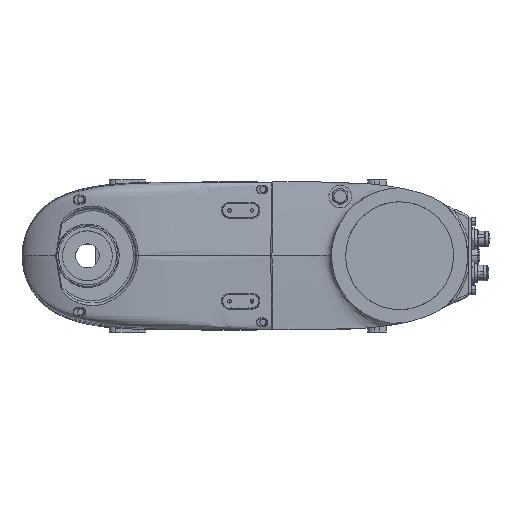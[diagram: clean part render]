
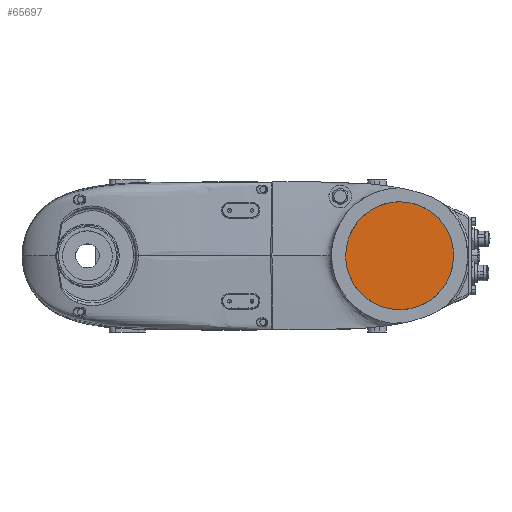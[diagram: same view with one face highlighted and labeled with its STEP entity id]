
A CAD part, top view. The second image highlights one B-rep face of the part: STEP entity #65697.
In plain terms, the highlighted planar face has unit normal (0, 0, 1).
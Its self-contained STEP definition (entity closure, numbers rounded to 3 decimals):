
#406 = CARTESIAN_POINT ( 'NONE',  ( 317.695, 21.05, -275. ) ) ;
#1255 = CARTESIAN_POINT ( 'NONE',  ( 251.195, -41.222, -275. ) ) ;
#4083 = EDGE_CURVE ( 'NONE', #35627, #32943, #74595, .T. ) ;
#4529 = CARTESIAN_POINT ( 'NONE',  ( 227.806, 6.218, -275. ) ) ;
#4675 = VERTEX_POINT ( 'NONE', #48070 ) ;
#4805 = CARTESIAN_POINT ( 'NONE',  ( 268.782, 47.194, -275. ) ) ;
#6599 = CARTESIAN_POINT ( 'NONE',  ( 281.218, 47.194, -275. ) ) ;
#6882 = CARTESIAN_POINT ( 'NONE',  ( 320.981, 12.316, -275. ) ) ;
#7704 = CARTESIAN_POINT ( 'NONE',  ( 322.194, -6.218, -275. ) ) ;
#7757 = CARTESIAN_POINT ( 'NONE',  ( 243.611, -35.786, -275. ) ) ;
#11060 = CARTESIAN_POINT ( 'NONE',  ( 229.926, 15.305, -275. ) ) ;
#11350 = CARTESIAN_POINT ( 'NONE',  ( 275., 47.5, -275. ) ) ;
#11564 = ORIENTED_EDGE ( 'NONE', *, *, #40156, .F. ) ;
#13139 = CARTESIAN_POINT ( 'NONE',  ( 287.316, 45.981, -275. ) ) ;
#13401 = CARTESIAN_POINT ( 'NONE',  ( 322.5, 3.109, -275. ) ) ;
#14205 = CARTESIAN_POINT ( 'NONE',  ( 320.074, -15.305, -275. ) ) ;
#14253 = CARTESIAN_POINT ( 'NONE',  ( 237.232, -28.975, -275. ) ) ;
#14612 = CARTESIAN_POINT ( 'NONE',  ( 275., 47.5, -275. ) ) ;
#17540 = CARTESIAN_POINT ( 'NONE',  ( 233.778, 23.805, -275. ) ) ;
#19635 = CARTESIAN_POINT ( 'NONE',  ( 296.05, 42.695, -275. ) ) ;
#19797 = CARTESIAN_POINT ( 'NONE',  ( 287.316, -45.981, -275. ) ) ;
#20736 = CARTESIAN_POINT ( 'NONE',  ( 316.222, -23.805, -275. ) ) ;
#20746 = FACE_OUTER_BOUND ( 'NONE', #82838, .T. ) ;
#20791 = CARTESIAN_POINT ( 'NONE',  ( 232.305, -21.05, -275. ) ) ;
#21799 = EDGE_CURVE ( 'NONE', #43337, #35627, #27685, .T. ) ;
#24155 = CARTESIAN_POINT ( 'NONE',  ( 239.214, 31.389, -275. ) ) ;
#26261 = CARTESIAN_POINT ( 'NONE',  ( 303.975, 37.768, -275. ) ) ;
#26441 = CARTESIAN_POINT ( 'NONE',  ( 278.109, -47.5, -275. ) ) ;
#27372 = CARTESIAN_POINT ( 'NONE',  ( 310.786, -31.389, -275. ) ) ;
#27426 = CARTESIAN_POINT ( 'NONE',  ( 229.019, -12.316, -275. ) ) ;
#27685 = B_SPLINE_CURVE_WITH_KNOTS ( 'NONE', 3,
 ( #69586, #37061, #4529, #50194, #11060, #56752, #17540, #63342, #24155, #69863, #30780, #76397, #37338, #82837, #43919, #4805, #50485, #11350 ),
 .UNSPECIFIED., .F., .F.,
 ( 4, 2, 2, 2, 2, 2, 2, 2, 4 ),
 ( 0., 0.125, 0.25, 0.375, 0.5, 0.625, 0.75, 0.875, 1. ),
 .UNSPECIFIED. ) ;
#28718 = CARTESIAN_POINT ( 'NONE',  ( 275., 47.5, -275. ) ) ;
#30203 = ORIENTED_EDGE ( 'NONE', *, *, #4083, .F. ) ;
#30780 = CARTESIAN_POINT ( 'NONE',  ( 246.025, 37.768, -275. ) ) ;
#31621 = AXIS2_PLACEMENT_3D ( 'NONE', #28718, #80852, #41904 ) ;
#32854 = CARTESIAN_POINT ( 'NONE',  ( 310.786, 31.389, -275. ) ) ;
#32943 = VERTEX_POINT ( 'NONE', #71756 ) ;
#33337 = B_SPLINE_CURVE_WITH_KNOTS ( 'NONE', 3,
 ( #53157, #46601, #72807, #33737, #79326, #40313, #1255, #46879, #7757, #53433, #14253, #60027, #20791, #66558, #27426, #73092, #34014, #79598 ),
 .UNSPECIFIED., .F., .F.,
 ( 4, 2, 2, 2, 2, 2, 2, 2, 4 ),
 ( 0., 0.125, 0.25, 0.375, 0.5, 0.625, 0.75, 0.875, 1. ),
 .UNSPECIFIED. ) ;
#33737 = CARTESIAN_POINT ( 'NONE',  ( 262.684, -45.981, -275. ) ) ;
#33965 = CARTESIAN_POINT ( 'NONE',  ( 303.975, -37.768, -275. ) ) ;
#34014 = CARTESIAN_POINT ( 'NONE',  ( 227.5, -3.109, -275. ) ) ;
#35627 = VERTEX_POINT ( 'NONE', #14612 ) ;
#37007 = ORIENTED_EDGE ( 'NONE', *, *, #21799, .F. ) ;
#37061 = CARTESIAN_POINT ( 'NONE',  ( 227.5, 3.109, -275. ) ) ;
#37338 = CARTESIAN_POINT ( 'NONE',  ( 253.95, 42.695, -275. ) ) ;
#38616 = CARTESIAN_POINT ( 'NONE',  ( 275., 47.5, -275. ) ) ;
#39173 = CARTESIAN_POINT ( 'NONE',  ( 278.109, 47.5, -275. ) ) ;
#39436 = CARTESIAN_POINT ( 'NONE',  ( 316.222, 23.805, -275. ) ) ;
#40156 = EDGE_CURVE ( 'NONE', #32943, #4675, #50531, .T. ) ;
#40258 = CARTESIAN_POINT ( 'NONE',  ( 322.5, -3.109, -275. ) ) ;
#40313 = CARTESIAN_POINT ( 'NONE',  ( 253.95, -42.695, -275. ) ) ;
#40549 = CARTESIAN_POINT ( 'NONE',  ( 296.05, -42.695, -275. ) ) ;
#41904 = DIRECTION ( 'NONE',  ( 0., -1., 0. ) ) ;
#43337 = VERTEX_POINT ( 'NONE', #57141 ) ;
#43919 = CARTESIAN_POINT ( 'NONE',  ( 262.684, 45.981, -275. ) ) ;
#46006 = CARTESIAN_POINT ( 'NONE',  ( 320.074, 15.305, -275. ) ) ;
#46550 = CARTESIAN_POINT ( 'NONE',  ( 322.5, 0., -275. ) ) ;
#46601 = CARTESIAN_POINT ( 'NONE',  ( 271.891, -47.5, -275. ) ) ;
#46879 = CARTESIAN_POINT ( 'NONE',  ( 246.025, -37.768, -275. ) ) ;
#48070 = CARTESIAN_POINT ( 'NONE',  ( 275., -47.5, -275. ) ) ;
#50194 = CARTESIAN_POINT ( 'NONE',  ( 229.019, 12.316, -275. ) ) ;
#50485 = CARTESIAN_POINT ( 'NONE',  ( 271.891, 47.5, -275. ) ) ;
#50531 = B_SPLINE_CURVE_WITH_KNOTS ( 'NONE', 3,
 ( #46550, #40258, #7704, #53380, #14205, #59972, #20736, #66509, #27372, #73036, #33965, #79550, #40549, #59045, #19797, #65602, #26441, #72119 ),
 .UNSPECIFIED., .F., .F.,
 ( 4, 2, 2, 2, 2, 2, 2, 2, 4 ),
 ( 0., 0.125, 0.25, 0.375, 0.5, 0.625, 0.75, 0.875, 1. ),
 .UNSPECIFIED. ) ;
#52558 = CARTESIAN_POINT ( 'NONE',  ( 322.194, 6.218, -275. ) ) ;
#53157 = CARTESIAN_POINT ( 'NONE',  ( 275., -47.5, -275. ) ) ;
#53380 = CARTESIAN_POINT ( 'NONE',  ( 320.981, -12.316, -275. ) ) ;
#53433 = CARTESIAN_POINT ( 'NONE',  ( 239.214, -31.389, -275. ) ) ;
#54712 = PLANE ( 'NONE',  #31621 ) ;
#56752 = CARTESIAN_POINT ( 'NONE',  ( 232.305, 21.05, -275. ) ) ;
#57141 = CARTESIAN_POINT ( 'NONE',  ( 227.5, 0., -275. ) ) ;
#58863 = CARTESIAN_POINT ( 'NONE',  ( 290.305, 45.074, -275. ) ) ;
#59045 = CARTESIAN_POINT ( 'NONE',  ( 290.305, -45.074, -275. ) ) ;
#59143 = CARTESIAN_POINT ( 'NONE',  ( 322.5, 0., -275. ) ) ;
#59972 = CARTESIAN_POINT ( 'NONE',  ( 317.695, -21.05, -275. ) ) ;
#60027 = CARTESIAN_POINT ( 'NONE',  ( 233.778, -23.805, -275. ) ) ;
#63342 = CARTESIAN_POINT ( 'NONE',  ( 237.232, 28.975, -275. ) ) ;
#65435 = CARTESIAN_POINT ( 'NONE',  ( 298.805, 41.222, -275. ) ) ;
#65602 = CARTESIAN_POINT ( 'NONE',  ( 281.218, -47.194, -275. ) ) ;
#65697 = ADVANCED_FACE ( 'NONE', ( #20746 ), #54712, .F. ) ;
#66509 = CARTESIAN_POINT ( 'NONE',  ( 312.768, -28.975, -275. ) ) ;
#66558 = CARTESIAN_POINT ( 'NONE',  ( 229.926, -15.305, -275. ) ) ;
#69586 = CARTESIAN_POINT ( 'NONE',  ( 227.5, 0., -275. ) ) ;
#69863 = CARTESIAN_POINT ( 'NONE',  ( 243.611, 35.786, -275. ) ) ;
#71334 = ORIENTED_EDGE ( 'NONE', *, *, #82196, .F. ) ;
#71756 = CARTESIAN_POINT ( 'NONE',  ( 322.5, 0., -275. ) ) ;
#71941 = CARTESIAN_POINT ( 'NONE',  ( 306.389, 35.786, -275. ) ) ;
#72119 = CARTESIAN_POINT ( 'NONE',  ( 275., -47.5, -275. ) ) ;
#72807 = CARTESIAN_POINT ( 'NONE',  ( 268.782, -47.194, -275. ) ) ;
#73036 = CARTESIAN_POINT ( 'NONE',  ( 306.389, -35.786, -275. ) ) ;
#73092 = CARTESIAN_POINT ( 'NONE',  ( 227.806, -6.218, -275. ) ) ;
#74595 = B_SPLINE_CURVE_WITH_KNOTS ( 'NONE', 3,
 ( #38616, #39173, #6599, #13139, #58863, #19635, #65435, #26261, #71941, #32854, #78462, #39436, #406, #46006, #6882, #52558, #13401, #59143 ),
 .UNSPECIFIED., .F., .F.,
 ( 4, 2, 2, 2, 2, 2, 2, 2, 4 ),
 ( 0., 0.125, 0.25, 0.375, 0.5, 0.625, 0.75, 0.875, 1. ),
 .UNSPECIFIED. ) ;
#76397 = CARTESIAN_POINT ( 'NONE',  ( 251.195, 41.222, -275. ) ) ;
#78462 = CARTESIAN_POINT ( 'NONE',  ( 312.768, 28.975, -275. ) ) ;
#79326 = CARTESIAN_POINT ( 'NONE',  ( 259.695, -45.074, -275. ) ) ;
#79550 = CARTESIAN_POINT ( 'NONE',  ( 298.805, -41.222, -275. ) ) ;
#79598 = CARTESIAN_POINT ( 'NONE',  ( 227.5, 0., -275. ) ) ;
#80852 = DIRECTION ( 'NONE',  ( 0., 0., -1. ) ) ;
#82196 = EDGE_CURVE ( 'NONE', #4675, #43337, #33337, .T. ) ;
#82837 = CARTESIAN_POINT ( 'NONE',  ( 259.695, 45.074, -275. ) ) ;
#82838 = EDGE_LOOP ( 'NONE', ( #71334, #11564, #30203, #37007 ) ) ;
